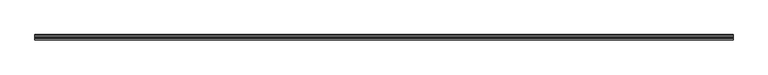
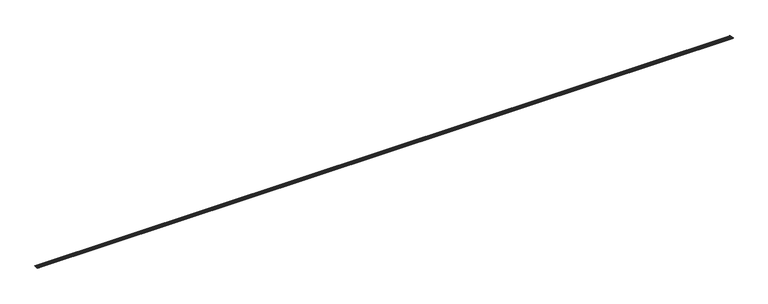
"""IFC4 building model written with IfcOpenShell, lengths in millimetres: proxy geometry, Weiku - Montante - Batente Titantec 02.3.02.040 : Weiku - Montante - Batente Titantec 02.3.02.040."""

from ifc_helpers import new_model, si_unit, point, frame, frame_2d, origin, place, context, project, spatial, polyline, circle_curve, trimmed, segment, composite_curve, outline, extrude, source, transform, mapped, element, save


def generic_models_2bfdb943(model_context):
    return source(origin(), model_context, "Body", "SweptSolid", [
        extrude(outline(composite_curve([segment(polyline([(-22.2, 5.4999971), (-17.2210117, 5.0020982)]), True, "CONTINUOUS"), segment(trimmed(circle_curve(frame_2d((-17.280714, 4.4050759)), 0.6), [point((-17.2210117, 5.0020982))], [point((-16.6912336, 4.2932147))], False, "CARTESIAN"), True, "CONTINUOUS"), segment(trimmed(circle_curve(frame_2d((-16.2, 4.1999971)), 0.5), [point((-16.6912336, 4.2932147))], [point((-16.0863636, 3.7130815))], True, "CARTESIAN"), True, "CONTINUOUS"), segment(trimmed(circle_curve(frame_2d((-15.95, 3.1287828)), 0.6), [point((-16.0863636, 3.7130815))], [point((-15.35, 3.1287828))], False, "CARTESIAN"), True, "CONTINUOUS"), segment(polyline([(-15.35, 3.1287828), (-15.35, 2.2999971), (-16.5, 2.2999971), (-16.5, 1.1999971), (-11.0, 1.1999971), (-11.0, 2.2999971), (-12.15, 2.2999971), (-12.15, 3.0999971)]), True, "CONTINUOUS"), segment(trimmed(circle_curve(frame_2d((-11.55, 3.0999971)), 0.6), [point((-12.15, 3.0999971))], [point((-11.55, 3.6999971))], False, "CARTESIAN"), True, "CONTINUOUS"), segment(polyline([(-11.55, 3.6999971), (-10.5, 3.6999971)]), True, "CONTINUOUS"), segment(trimmed(circle_curve(frame_2d((-10.5, 3.1999971)), 0.5), [point((-10.5, 3.6999971))], [point((-10.0, 3.1999971))], False, "CARTESIAN"), True, "CONTINUOUS"), segment(polyline([(-10.0, 3.1999971), (-10.0, 1.7999971)]), True, "CONTINUOUS"), segment(trimmed(circle_curve(frame_2d((-9.4, 1.7999971)), 0.6), [point((-10.0, 1.7999971))], [point((-9.4, 1.1999971))], True, "CARTESIAN"), True, "CONTINUOUS"), segment(polyline([(-9.4, 1.1999971), (-1.2, 1.1999971)]), True, "CONTINUOUS"), segment(trimmed(circle_curve(frame_2d((-1.2, -2.9e-06)), 1.2), [point((-1.2, 1.1999971))], [point((0.0, -2.9e-06))], False, "CARTESIAN"), True, "CONTINUOUS"), segment(polyline([(0.0, -2.9e-06), (-17.7, -2.9e-06), (-17.7, 4.0499971), (-22.2, 4.4999971)]), True, "CONTINUOUS"), segment(trimmed(circle_curve(frame_2d((-22.2, 4.9999971)), 0.5), [point((-22.2, 4.4999971))], [point((-22.2, 5.4999971))], False, "CARTESIAN"), True, "CONTINUOUS")], self_intersect=False)), frame((-1471.8, 0.0, 0.0), z_axis=(1.0, 0.0, 0.0), x_axis=(0.0, 1.0, 0.0)), (0.0, 0.0, 1.0), 2943.6),
    ])


if __name__ == "__main__":
    model = new_model("IFC4")
    model_context = context("Model", 3, world=origin())
    ifc_project = project(units=[si_unit("LENGTHUNIT", "METRE", prefix="MILLI")], contexts=[model_context])
    site = spatial("IfcSite", under=ifc_project)
    building = spatial("IfcBuilding", under=site)
    placement = place(None, origin())
    generic_models_shape = generic_models_2bfdb943(model_context)
    element("IfcBuildingElementProxy", 1, Name="Weiku - Montante - Batente Titantec 02.3.02.040 : Weiku - Montante - Batente Titantec 02.3.02.040", ObjectType="Weiku - Montante - Batente Titantec 02.3.02.040 : Weiku - Montante - Batente Titantec 02.3.02.040", at=placement, inside=building, context=model_context, shape_type="MappedRepresentation", body=[
        mapped(generic_models_shape, transform((0.0, 0.0, 0.0), x_axis=(1.0, 0.0, 0.0), y_axis=(0.0, 1.0, 0.0), z_axis=(0.0, 0.0, 1.0))),
    ])
    save(model, "model.ifc")
